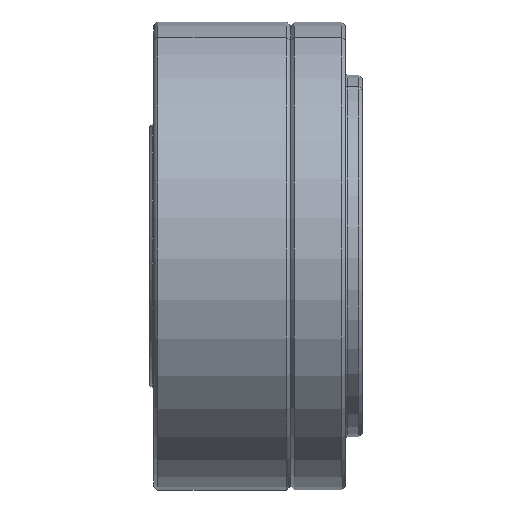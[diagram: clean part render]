
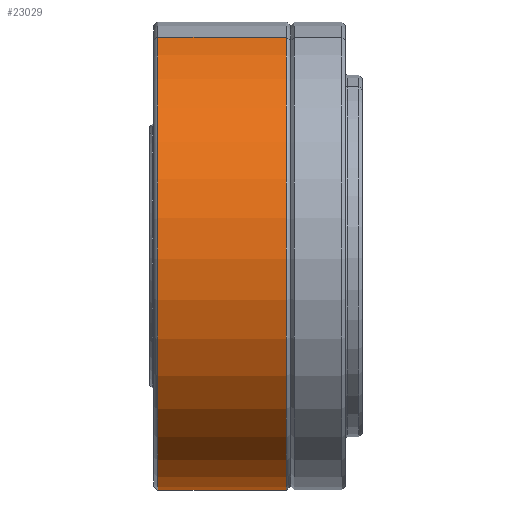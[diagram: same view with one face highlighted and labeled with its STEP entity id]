
A CAD part, front view. The second image highlights one B-rep face of the part: STEP entity #23029.
In plain terms, the highlighted cylindrical face has radius 27.5 mm (diameter 55 mm), a partial arc.
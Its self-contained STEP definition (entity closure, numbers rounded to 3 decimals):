
#218 = VERTEX_POINT ( 'NONE', #1744 ) ;
#864 = ORIENTED_EDGE ( 'NONE', *, *, #20884, .F. ) ;
#1105 = CARTESIAN_POINT ( 'NONE',  ( 0., 0., -27.5 ) ) ;
#1556 = VERTEX_POINT ( 'NONE', #15091 ) ;
#1613 = EDGE_LOOP ( 'NONE', ( #864, #6609, #14461, #5590 ) ) ;
#1699 = VERTEX_POINT ( 'NONE', #21071 ) ;
#1744 = CARTESIAN_POINT ( 'NONE',  ( 4.364, 0., -27.5 ) ) ;
#3421 = CARTESIAN_POINT ( 'NONE',  ( 0., 0., 27.5 ) ) ;
#3770 = EDGE_CURVE ( 'NONE', #21981, #1556, #8705, .T. ) ;
#4518 = CARTESIAN_POINT ( 'NONE',  ( 19.476, 0., 27.5 ) ) ;
#5144 = CARTESIAN_POINT ( 'NONE',  ( 19.476, 0., 0. ) ) ;
#5201 = CYLINDRICAL_SURFACE ( 'NONE', #5423, 27.5 ) ;
#5271 = DIRECTION ( 'NONE',  ( -1., 0., 0. ) ) ;
#5423 = AXIS2_PLACEMENT_3D ( 'NONE', #16577, #12868, #7377 ) ;
#5590 = ORIENTED_EDGE ( 'NONE', *, *, #19775, .F. ) ;
#5596 = EDGE_CURVE ( 'NONE', #1699, #21981, #13701, .T. ) ;
#6609 = ORIENTED_EDGE ( 'NONE', *, *, #5596, .T. ) ;
#6986 = VECTOR ( 'NONE', #5271, 1000. ) ;
#6989 = DIRECTION ( 'NONE',  ( 0., 0., 1. ) ) ;
#7296 = CARTESIAN_POINT ( 'NONE',  ( 4.364, 0., 0. ) ) ;
#7377 = DIRECTION ( 'NONE',  ( 0., 0., 1. ) ) ;
#8705 = LINE ( 'NONE', #3421, #6986 ) ;
#9049 = LINE ( 'NONE', #1105, #13384 ) ;
#9137 = DIRECTION ( 'NONE',  ( 0., 0., 1. ) ) ;
#12868 = DIRECTION ( 'NONE',  ( -1., 0., 0. ) ) ;
#13384 = VECTOR ( 'NONE', #14018, 1000. ) ;
#13701 = CIRCLE ( 'NONE', #20391, 27.5 ) ;
#14018 = DIRECTION ( 'NONE',  ( -1., 0., 0. ) ) ;
#14461 = ORIENTED_EDGE ( 'NONE', *, *, #3770, .T. ) ;
#15091 = CARTESIAN_POINT ( 'NONE',  ( 4.364, 0., 27.5 ) ) ;
#16577 = CARTESIAN_POINT ( 'NONE',  ( 0., 0., 0. ) ) ;
#18007 = DIRECTION ( 'NONE',  ( -1., 0., 0. ) ) ;
#18452 = AXIS2_PLACEMENT_3D ( 'NONE', #7296, #20161, #9137 ) ;
#19775 = EDGE_CURVE ( 'NONE', #218, #1556, #23174, .T. ) ;
#20161 = DIRECTION ( 'NONE',  ( -1., 0., 0. ) ) ;
#20391 = AXIS2_PLACEMENT_3D ( 'NONE', #5144, #18007, #6989 ) ;
#20438 = FACE_OUTER_BOUND ( 'NONE', #1613, .T. ) ;
#20884 = EDGE_CURVE ( 'NONE', #1699, #218, #9049, .T. ) ;
#21071 = CARTESIAN_POINT ( 'NONE',  ( 19.476, 0., -27.5 ) ) ;
#21981 = VERTEX_POINT ( 'NONE', #4518 ) ;
#23029 = ADVANCED_FACE ( 'NONE', ( #20438 ), #5201, .T. ) ;
#23174 = CIRCLE ( 'NONE', #18452, 27.5 ) ;
